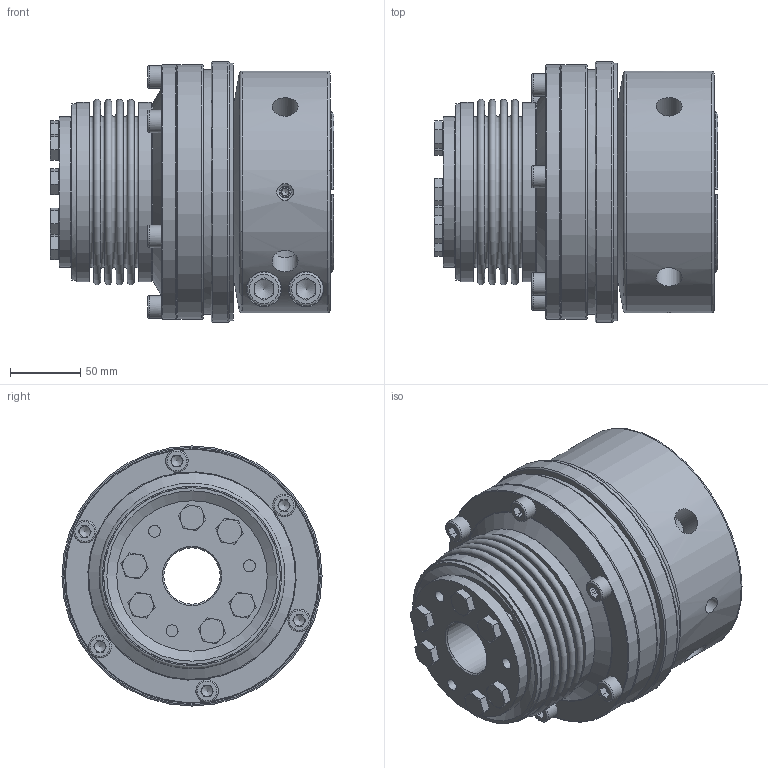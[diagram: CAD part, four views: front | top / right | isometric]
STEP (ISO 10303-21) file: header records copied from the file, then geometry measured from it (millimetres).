
FILE_DESCRIPTION( ( 'Unknown' ), '1' );
FILE_NAME( 'F:/JAKOB-STEP+IGES-Dateien/STEP-Dateien/SKB-KS/SKB-KS 1000-.stp', 'Unknown', ( 'Unknown' ), ( 'Unknown' ), 'PSStep 10.1', 'Unknown', ' ' );
FILE_SCHEMA( ( 'AUTOMOTIVE_DESIGN { 1 0 10303 214 1 1 1 1 }' ) );
Length unit declared in the file: millimetre
Products named in the file (1): 20720976
Bounding box: 201.9 x 185 x 185 mm (x, y, z)
Volume: 2798875.3 mm3; surface area: 483347 mm2
Topology: 1 solids, 15 shells, 651 faces, 1801 edges, 1174 vertices
Faces by surface type: plane 274, cylinder 129, torus 123, cone 83, sphere 30, bspline 12
Full cylindrical faces by diameter (mm): 8.5 x18, 10 x12, 10.4 x6, 10.5 x6, 12 x2, 14 x2, 15.4 x6, 16 x8, 16.5 x2, 18.5 x4, 24 x2, 25 x2, 40 x1, 42 x1, 66.85 x1, 100 x1, 102 x1, 107 x1, 107.7 x1, 109 x1, 109.8 x1, 110 x3, 115.2 x1, 117 x1, 120 x2, 125.6 x2, 127.6 x2, 128 x1, 130 x2, 140 x3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
Entity records: 28754 total; most frequent: CARTESIAN_POINT 9054, DIRECTION 2904, ORIENTED_EDGE 2810, EDGE_CURVE 1405, AXIS2_PLACEMENT_3D 1244, VERTEX_POINT 1004, EDGE_LOOP 969, FACE_OUTER_BOUND 773
